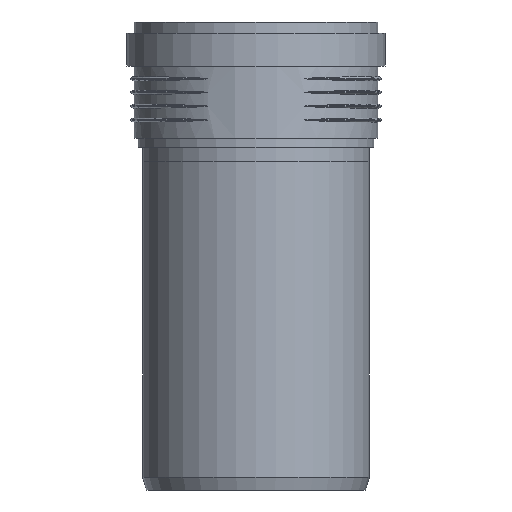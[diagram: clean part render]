
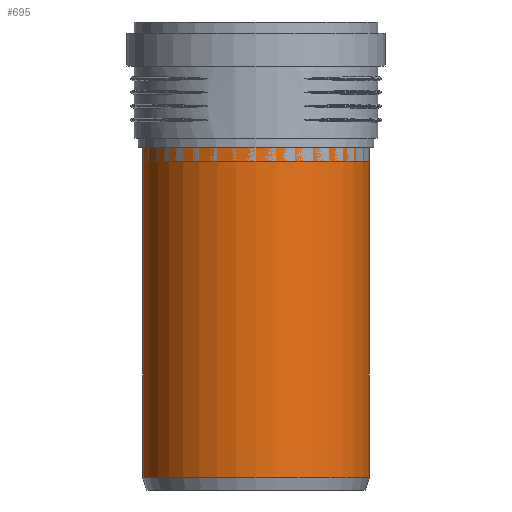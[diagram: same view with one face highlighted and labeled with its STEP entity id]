
A CAD part, left-side view. The second image highlights one B-rep face of the part: STEP entity #695.
In plain terms, the highlighted cylindrical face has radius 80.125 mm (diameter 160.25 mm), a full revolution.
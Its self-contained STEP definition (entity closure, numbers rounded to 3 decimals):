
#94=CYLINDRICAL_SURFACE($,#750,80.125);
#118=FACE_BOUND($,#198,.T.);
#153=FACE_OUTER_BOUND($,#197,.T.);
#197=EDGE_LOOP($,(#472));
#198=EDGE_LOOP($,(#473));
#272=CIRCLE($,#747,80.125);
#274=CIRCLE($,#751,80.125);
#311=VERTEX_POINT($,#1021);
#313=VERTEX_POINT($,#1027);
#382=EDGE_CURVE($,#311,#311,#272,.T.);
#384=EDGE_CURVE($,#313,#313,#274,.T.);
#472=ORIENTED_EDGE($,*,*,#384,.T.);
#473=ORIENTED_EDGE($,*,*,#382,.F.);
#695=ADVANCED_FACE($,(#153,#118),#94,.T.);
#747=AXIS2_PLACEMENT_3D($,#1022,#841,#842);
#750=AXIS2_PLACEMENT_3D($,#1026,#847,#848);
#751=AXIS2_PLACEMENT_3D($,#1028,#849,#850);
#841=DIRECTION('center_axis',(0.,0.,-1.));
#842=DIRECTION('ref_axis',(-1.,0.,0.));
#847=DIRECTION('center_axis',(0.,0.,1.));
#848=DIRECTION('ref_axis',(-1.,0.,0.));
#849=DIRECTION('center_axis',(0.,0.,-1.));
#850=DIRECTION('ref_axis',(-1.,0.,0.));
#1021=CARTESIAN_POINT('',(80.125,0.,-112.));
#1022=CARTESIAN_POINT('Origin',(0.,0.,-112.));
#1026=CARTESIAN_POINT('Origin',(0.,0.,0.));
#1027=CARTESIAN_POINT('',(80.125,0.,121.));
#1028=CARTESIAN_POINT('Origin',(0.,0.,121.));
